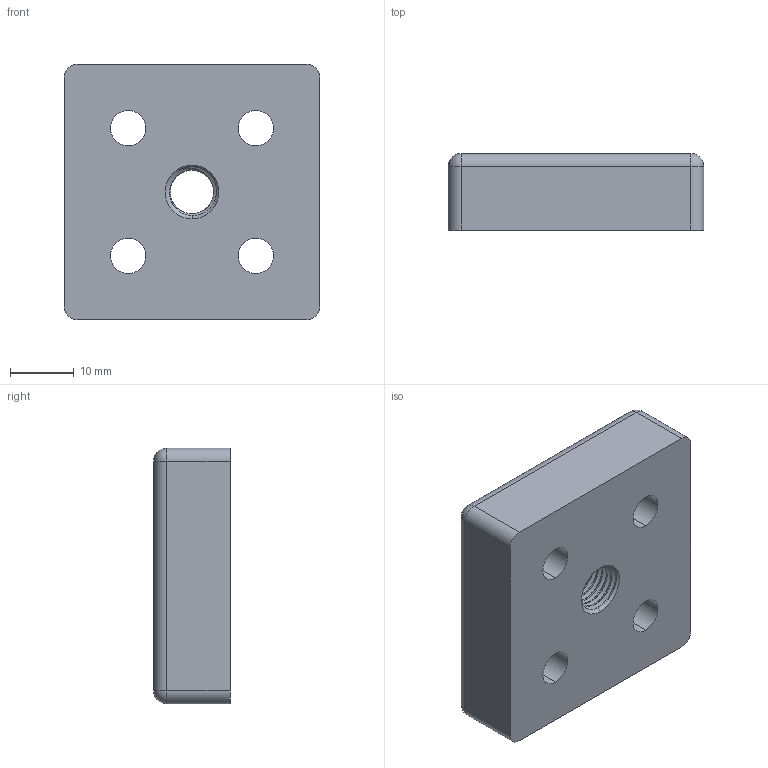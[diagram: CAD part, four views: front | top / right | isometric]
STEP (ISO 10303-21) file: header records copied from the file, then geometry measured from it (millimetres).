
FILE_DESCRIPTION (( 'STEP AP203' ), '1' );
FILE_NAME ('3245.020.004.STEP', '2025-02-19T06:20:53', ( '' ), ( '' ), 'SwSTEP 2.0', 'SolidWorks 2024', '' );
FILE_SCHEMA (( 'CONFIG_CONTROL_DESIGN' ));
Length unit declared in the file: millimetre
Products named in the file (1): 3245.020.004
Bounding box: 40 x 12 x 40 mm (x, y, z)
Volume: 16046.9 mm3; surface area: 6180.2 mm2
Topology: 1 solids, 1 shells, 78 faces, 198 edges, 122 vertices
Faces by surface type: cylinder 47, cone 14, plane 10, sphere 4, bspline 3
Entity records: 5710 total; most frequent: CARTESIAN_POINT 3876, ORIENTED_EDGE 388, DIRECTION 352, EDGE_CURVE 194, AXIS2_PLACEMENT_3D 140, VERTEX_POINT 122, EDGE_LOOP 92, ADVANCED_FACE 78
